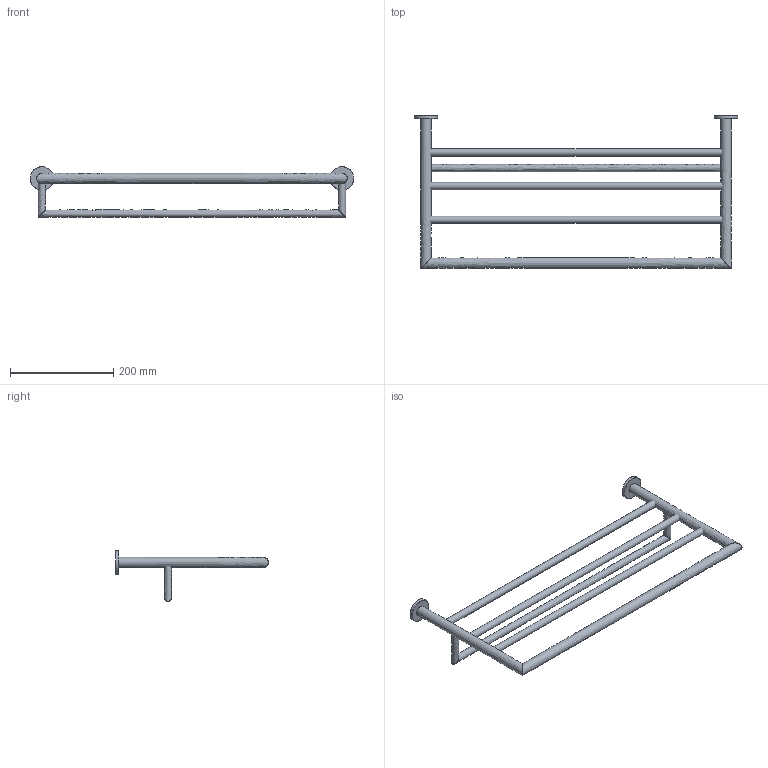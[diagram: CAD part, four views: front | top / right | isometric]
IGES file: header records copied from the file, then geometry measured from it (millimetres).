
Global section: file name: /Users/f/Desktop/I'/AE814.igs; native system: Rhinoceros ( Jul 22 2010 ); preprocessor: Trout Lake IGES 012 Jul 22 2010; date: 100728.070413; units: millimetre
Bounding box: 625 x 295 x 97.5 mm (x, y, z)
Surface area: 192346 mm2 (no closed solid volume)
Topology: 0 solids, 0 shells, 33 faces, 1662 edges, 1659 vertices
Faces by surface type: bspline 33
